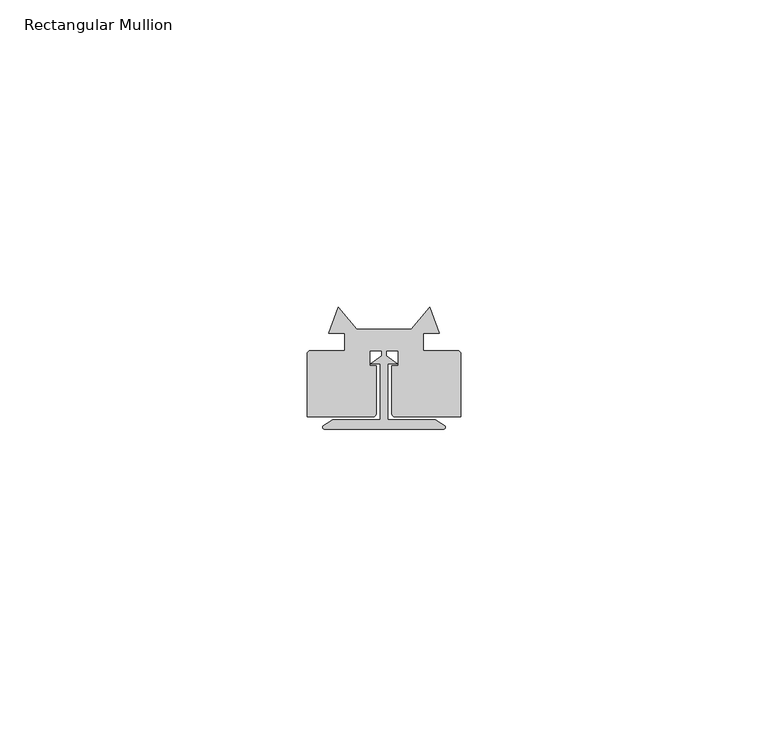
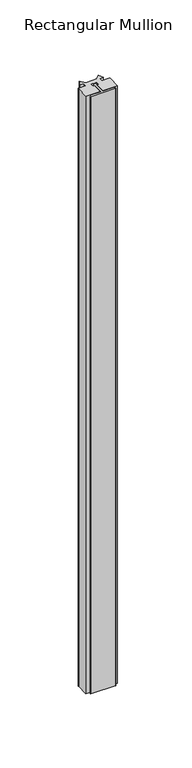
"""IFC4 building model written with IfcOpenShell, lengths in millimetres: member geometry, Rectangular Mullion : QO-H-01_01 Joint."""

import ifcopenshell
import ifcopenshell.guid

model = None  # the IFC model being written
_history = None  # IfcOwnerHistory: only IFC2X3 demands one
_inside = {}  # id of a spatial element -> (the spatial element, [elements in it])
_under = {}  # id of a project, library or spatial element -> (it, [spatial elements below it])
_declared = {}  # id of a project -> (the project, [libraries it declares])
_typed = {}  # id of a type object -> (the type object, [elements of that type])
_made_of = {}  # id of a material, layer set ... -> (it, [elements and type objects made of it])


def new_model(schema):
    """Start an empty IFC model of exactly this schema.

    Asked for "IFC4X3", IfcOpenShell would pick the latest addendum, in which some entities
    have other attributes; the version numbers below select the first issue.
    IFC2X3 requires an IfcOwnerHistory on every rooted entity: one is made here for all.
    """
    global model, _history
    if schema == "IFC4X3":
        model = ifcopenshell.file(schema_version=(4, 3, 0, 0))
    else:
        model = ifcopenshell.file(schema=schema)
    _inside.clear()
    _under.clear()
    _declared.clear()
    _typed.clear()
    _made_of.clear()
    _history = None
    if model.schema == "IFC2X3":
        org = make("IfcOrganization", Name="unknown")
        user = make(
            "IfcPersonAndOrganization",
            ThePerson=make("IfcPerson", FamilyName="unknown"),
            TheOrganization=org,
        )
        app = make(
            "IfcApplication",
            ApplicationDeveloper=org,
            Version="unknown",
            ApplicationFullName="unknown",
            ApplicationIdentifier="unknown",
        )
        _history = make(
            "IfcOwnerHistory",
            OwningUser=user,
            OwningApplication=app,
            ChangeAction="ADDED",
            CreationDate=0,
        )
    return model


def make(cls, **values):
    """One entity of the class cls with the attributes given. An attribute that is None is left unset."""
    return model.create_entity(
        cls, **{name: value for name, value in values.items() if value is not None}
    )


def rooted(cls, **values):
    """An entity with a GlobalId (a new one), such as an element, a storey or a relation."""
    return make(cls, GlobalId=ifcopenshell.guid.new(), OwnerHistory=_history, **values)


def si_unit(unit_type, name, prefix=None):
    """IfcSIUnit, for example si_unit("LENGTHUNIT", "METRE", prefix="MILLI")."""
    return make("IfcSIUnit", UnitType=unit_type, Prefix=prefix, Name=name)


def assignment(units):
    """IfcUnitAssignment: the units of a project."""
    return None if units is None else make("IfcUnitAssignment", Units=units)


def point(xyz):
    """IfcCartesianPoint."""
    return None if xyz is None else make("IfcCartesianPoint", Coordinates=xyz)


def direction(xyz):
    """IfcDirection."""
    return None if xyz is None else make("IfcDirection", DirectionRatios=xyz)


def frame(location, z_axis=None, x_axis=None):
    """IfcAxis2Placement3D, a coordinate frame: its origin and axes. An axis left out is left unset."""
    return make(
        "IfcAxis2Placement3D",
        Location=point(location),
        Axis=direction(z_axis),
        RefDirection=direction(x_axis),
    )


def frame_2d(location, x_axis=None):
    """IfcAxis2Placement2D, a coordinate frame in the plane: its origin and x axis."""
    return make(
        "IfcAxis2Placement2D", Location=point(location), RefDirection=direction(x_axis)
    )


def origin():
    """The frame at (0, 0, 0) with its axes left unset."""
    return frame((0.0, 0.0, 0.0))


def place(relative_to, where):
    """IfcLocalPlacement: puts the frame where relative to a parent placement (None: the world)."""
    return make(
        "IfcLocalPlacement", PlacementRelTo=relative_to, RelativePlacement=where
    )


def context(
    kind, dimensions, precision=None, world=None, true_north=None, identifier=None
):
    """IfcGeometricRepresentationContext, for example the 3D "Model" context."""
    return make(
        "IfcGeometricRepresentationContext",
        ContextIdentifier=identifier,
        ContextType=kind,
        CoordinateSpaceDimension=dimensions,
        Precision=precision,
        WorldCoordinateSystem=world,
        TrueNorth=true_north,
    )


def project(units=None, contexts=None):
    """IfcProject with its units and contexts."""
    return rooted(
        "IfcProject",
        Name="project",
        RepresentationContexts=contexts,
        UnitsInContext=assignment(units),
    )


def spatial(cls, under=None, at=None, **own):
    """A site, building, storey or space (cls), placed at a placement, below another one or the project."""
    s = rooted(cls, ObjectPlacement=at, **own)
    if under is not None:
        _under.setdefault(under.id(), (under, []))[1].append(s)
    return s


def polyline(points):
    """IfcPolyline through the points."""
    return make("IfcPolyline", Points=[point(p) for p in points])


def circle_curve(where, radius):
    """IfcCircle in the frame where."""
    return make("IfcCircle", Position=where, Radius=radius)


def trimmed(basis, trim1, trim2, sense, master):
    """IfcTrimmedCurve: the piece of a basis curve between two trims."""
    return make(
        "IfcTrimmedCurve",
        BasisCurve=basis,
        Trim1=trim1,
        Trim2=trim2,
        SenseAgreement=sense,
        MasterRepresentation=master,
    )


def segment(curve, same_sense, transition):
    """IfcCompositeCurveSegment."""
    return make(
        "IfcCompositeCurveSegment",
        Transition=transition,
        SameSense=same_sense,
        ParentCurve=curve,
    )


def composite_curve(segments, self_intersect=None):
    """IfcCompositeCurve: segments joined end to end."""
    return make("IfcCompositeCurve", Segments=segments, SelfIntersect=self_intersect)


def outline(outer, holes=None, kind="AREA"):
    """IfcArbitraryClosedProfileDef: a profile drawn as a closed curve; with holes, ...WithVoids."""
    if holes is None:
        return make("IfcArbitraryClosedProfileDef", ProfileType=kind, OuterCurve=outer)
    return make(
        "IfcArbitraryProfileDefWithVoids",
        ProfileType=kind,
        OuterCurve=outer,
        InnerCurves=holes,
    )


def extrude(swept, where, along, depth):
    """IfcExtrudedAreaSolid: the profile swept, set in the frame where, extruded along a direction by depth."""
    return make(
        "IfcExtrudedAreaSolid",
        SweptArea=swept,
        Position=where,
        ExtrudedDirection=direction(along),
        Depth=depth,
    )


def shape(context_of_items, identifier, shape_type, items):
    """IfcShapeRepresentation: the items that make up one representation, for example the "Body"."""
    return make(
        "IfcShapeRepresentation",
        ContextOfItems=context_of_items,
        RepresentationIdentifier=identifier,
        RepresentationType=shape_type,
        Items=items,
    )


def source(mapping_origin, context_of_items, identifier, shape_type, items):
    """IfcRepresentationMap: a shape defined once, which mapped items show again and again."""
    return make(
        "IfcRepresentationMap",
        MappingOrigin=mapping_origin,
        MappedRepresentation=shape(context_of_items, identifier, shape_type, items),
    )


def transform(
    local_origin,
    x_axis=None,
    y_axis=None,
    z_axis=None,
    scale=None,
    scale2=None,
    scale3=None,
    uniform=True,
):
    """IfcCartesianTransformationOperator3D, or its non-uniform kind. x_axis, y_axis, z_axis: its Axis1, 2, 3."""
    if uniform:
        return make(
            "IfcCartesianTransformationOperator3D",
            Axis1=direction(x_axis),
            Axis2=direction(y_axis),
            LocalOrigin=point(local_origin),
            Scale=scale,
            Axis3=direction(z_axis),
        )
    return make(
        "IfcCartesianTransformationOperator3DnonUniform",
        Axis1=direction(x_axis),
        Axis2=direction(y_axis),
        LocalOrigin=point(local_origin),
        Scale=scale,
        Axis3=direction(z_axis),
        Scale2=scale2,
        Scale3=scale3,
    )


def mapped(mapping_source, mapping_target):
    """IfcMappedItem: shows the shape of a source again, moved by a transform."""
    return make(
        "IfcMappedItem", MappingSource=mapping_source, MappingTarget=mapping_target
    )


def made_of(thing, what):
    """Note that an element or type object is made of a material, layer set ...; save() writes the relation."""
    if what is not None:
        _made_of.setdefault(what.id(), (what, []))[1].append(thing)
    return thing


def element(
    cls,
    number,
    at=None,
    inside=None,
    cuts=None,
    type_object=None,
    material=None,
    context=None,
    identifier="Body",
    shape_type=None,
    held_by="IfcProductDefinitionShape",
    body=None,
    shapes=None,
    **own,
):
    """One element of the class cls, such as IfcWall. Its Tag is "e" and its number.

    at: its placement. inside: the storey or other place that contains it. cuts: it is an
    opening in that element (IfcRelVoidsElement). A single representation is given by context,
    identifier, shape_type and body (its items); several are given by shapes. held_by: the class
    of the entity that holds the representations. save() writes the other relations.
    """
    e = rooted(cls, Tag="e%d" % number, ObjectPlacement=at, **own)
    if body is not None:
        shapes = [shape(context, identifier, shape_type, body)]
    if shapes is not None:
        e.Representation = make(held_by, Representations=shapes)
    if inside is not None:
        _inside.setdefault(inside.id(), (inside, []))[1].append(e)
    if cuts is not None:
        rooted(
            "IfcRelVoidsElement", RelatingBuildingElement=cuts, RelatedOpeningElement=e
        )
    if type_object is not None:
        _typed.setdefault(type_object.id(), (type_object, []))[1].append(e)
    return made_of(e, material)


def aggregate(whole, parts):
    """IfcRelAggregates: a whole, such as a stair, and the parts it consists of."""
    return rooted("IfcRelAggregates", RelatingObject=whole, RelatedObjects=parts)


def save(model, path):
    """Write the relations noted so far, then the file.

    IfcRelAggregates (storeys below a building ...), IfcRelContainedInSpatialStructure (elements
    in a storey), IfcRelDefinesByType, IfcRelAssociatesMaterial and IfcRelDeclares: one each for
    every whole, place, type object, material and project.
    """
    for whole, parts in _under.values():
        aggregate(whole, parts)
    for where, things in _inside.values():
        rooted(
            "IfcRelContainedInSpatialStructure",
            RelatedElements=things,
            RelatingStructure=where,
        )
    for kind, things in _typed.values():
        rooted("IfcRelDefinesByType", RelatedObjects=things, RelatingType=kind)
    for what, things in _made_of.values():
        rooted("IfcRelAssociatesMaterial", RelatedObjects=things, RelatingMaterial=what)
    for by, libraries in _declared.values():
        rooted("IfcRelDeclares", RelatingContext=by, RelatedDefinitions=libraries)
    model.write(path)


def rectangular_mullion_9c43bcef(model_context):
    return source(origin(), model_context, "Body", "SweptSolid", [
        extrude(outline(composite_curve([segment(polyline([(0.6475876, 34.6160805), (0.6475876, 25.5027713), (8.3158634, 25.5027713), (9.8478388, 24.5783623)]), True, "CONTINUOUS"), segment(trimmed(circle_curve(frame_2d((9.6876801, 24.3129396)), 0.31), [point((9.8478388, 24.5783623))], [point((9.6876801, 24.0029396))], False, "CARTESIAN"), True, "CONTINUOUS"), segment(polyline([(9.6876801, 24.0029396), (-9.6923428, 24.0029396)]), True, "CONTINUOUS"), segment(trimmed(circle_curve(frame_2d((-9.6923428, 24.3129396)), 0.31), [point((-9.6923428, 24.0029396))], [point((-9.8525015, 24.5783623))], False, "CARTESIAN"), True, "CONTINUOUS"), segment(polyline([(-9.8525015, 24.5783623), (-8.3205261, 25.5027713), (-0.6524124, 25.5027713), (-0.6524124, 34.6160805), (-2.1674381, 34.6160805), (-0.3546092, 35.9759407), (-0.3546092, 36.7759407), (-2.3561345, 36.7759407), (-2.3561345, 34.317153), (-1.2879019, 34.317153), (-1.2879019, 26.5392087)]), True, "CONTINUOUS"), segment(trimmed(circle_curve(frame_2d((-1.7872786, 26.5150144)), 0.4999625), [point((-1.2879019, 26.5392087))], [point((-1.7872786, 26.0150519))], False, "CARTESIAN"), True, "CONTINUOUS"), segment(polyline([(-1.7872786, 26.0150519), (-12.5010847, 26.0150519), (-12.5010847, 36.190378)]), True, "CONTINUOUS"), segment(trimmed(circle_curve(frame_2d((-11.9010847, 36.190378)), 0.6), [point((-12.5010847, 36.190378))], [point((-11.9010847, 36.790378))], False, "CARTESIAN"), True, "CONTINUOUS"), segment(polyline([(-11.9010847, 36.790378), (-6.362561, 36.790378), (-6.362561, 39.6058207), (-8.961162, 39.6058207), (-7.4224126, 43.8493822), (-4.3991903, 40.3004498), (4.3943655, 40.3004498), (7.4175879, 43.8493822), (8.9563372, 39.6058207), (6.3577362, 39.6058207), (6.3577362, 36.790378), (11.8962599, 36.790378)]), True, "CONTINUOUS"), segment(trimmed(circle_curve(frame_2d((11.8962599, 36.190378)), 0.6), [point((11.8962599, 36.790378))], [point((12.4962599, 36.190378))], False, "CARTESIAN"), True, "CONTINUOUS"), segment(polyline([(12.4962599, 36.190378), (12.4962599, 26.0150519), (1.7824538, 26.0150519)]), True, "CONTINUOUS"), segment(trimmed(circle_curve(frame_2d((1.7824538, 26.5150144)), 0.4999625), [point((1.7824538, 26.0150519))], [point((1.2830771, 26.5392087))], False, "CARTESIAN"), True, "CONTINUOUS"), segment(polyline([(1.2830771, 26.5392087), (1.2830771, 34.317153), (2.3513097, 34.317153), (2.3513097, 36.7759407), (0.3497844, 36.7759407), (0.3497844, 35.9759407), (2.1626133, 34.6160805), (0.6475876, 34.6160805)]), True, "CONTINUOUS")], self_intersect=False)), frame((0.0, 0.0, -500.0), z_axis=(0.0, 0.0, 1.0), x_axis=(1.0, 0.0, 0.0)), (0.0, 0.0, 1.0), 500.0),
    ])


if __name__ == "__main__":
    model = new_model("IFC4")
    model_context = context("Model", 3, world=origin())
    ifc_project = project(units=[si_unit("LENGTHUNIT", "METRE", prefix="MILLI")], contexts=[model_context])
    site = spatial("IfcSite", under=ifc_project)
    building = spatial("IfcBuilding", under=site)
    placement = place(None, origin())
    rectangular_mullion_shape = rectangular_mullion_9c43bcef(model_context)
    element("IfcMember", 1, ObjectType="Rectangular Mullion : QO-H-01_01 Joint", at=placement, inside=building, context=model_context, shape_type="MappedRepresentation", body=[
        mapped(rectangular_mullion_shape, transform((0.0, 0.0, 0.0), x_axis=(1.0, 0.0, 0.0), y_axis=(0.0, 1.0, 0.0), z_axis=(0.0, 0.0, 1.0))),
    ])
    save(model, "model.ifc")
